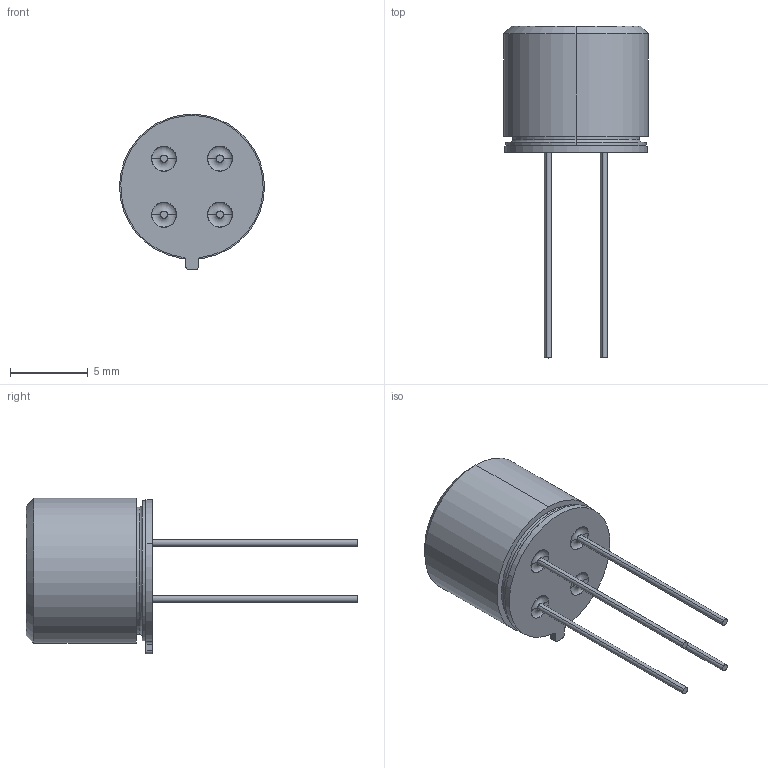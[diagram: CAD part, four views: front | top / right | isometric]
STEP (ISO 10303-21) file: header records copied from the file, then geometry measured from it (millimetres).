
FILE_DESCRIPTION((''),'2;1');
FILE_NAME('MLX90614XCK_ASM','2018-05-03T',('jre'),(''),'PRO/ENGINEER BY PARAMETRIC TECHNOLOGY CORPORATION, 2010280','PRO/ENGINEER BY PARAMETRIC TECHNOLOGY CORPORATION, 2010280','');
FILE_SCHEMA(('CONFIG_CONTROL_DESIGN'));
Length unit declared in the file: millimetre
Products named in the file (10): MLX90614_CAP_ANY; 90614_GLASS_INSULATION_ANY; MLX90614_FILTER_ANY; 0_45MM_PIN_ANY; 90614_BASE_ANY; MLX90614X_HEADER_ASSY_ANY_ASM; MLX90614XCK_APPERTURE_ANY; MLX90614XCK_ANY_ASM; _MLX90614XCK; MLX90614XCK_ASM
Assembly tree (15 placements, depth 4):
  MLX90614XCK_ASM
    MLX90614XCK_ANY_ASM
      MLX90614X_HEADER_ASSY_ANY_ASM
        MLX90614_CAP_ANY
        90614_GLASS_INSULATION_ANY  x4
        MLX90614_FILTER_ANY
        0_45MM_PIN_ANY  x4
        90614_BASE_ANY
      MLX90614XCK_APPERTURE_ANY
    _MLX90614XCK
Bounding box: 9.3 x 21.3 x 9.98 mm (x, y, z)
Volume: 422.2 mm3; surface area: 1052.4 mm2
Topology: 12 solids, 12 shells, 226 faces, 461 edges, 278 vertices
Faces by surface type: cone 76, cylinder 64, plane 50, torus 36
Entity records: 4864 total; most frequent: DIRECTION 983, CARTESIAN_POINT 766, ORIENTED_EDGE 706, AXIS2_PLACEMENT_3D 423, EDGE_CURVE 353, CIRCLE 216, VERTEX_POINT 206, EDGE_LOOP 193
